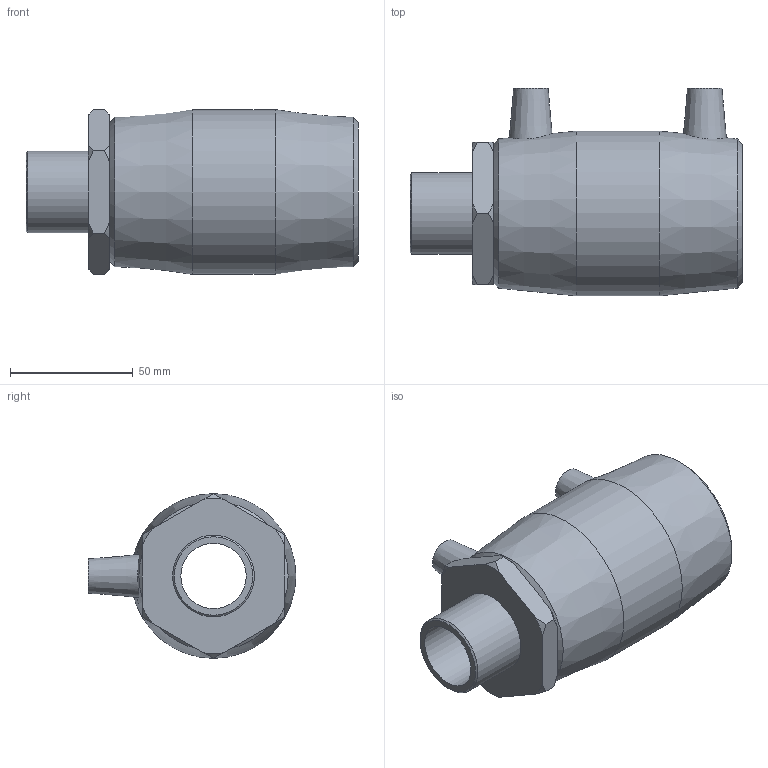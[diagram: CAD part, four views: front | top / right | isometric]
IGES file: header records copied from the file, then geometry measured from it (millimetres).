
Global section: file name: 492104050010.ipt; native system: Autodesk Inventor 2015; preprocessor: unknown; author: KIM; date: 20200202.122316; units: millimetre
Bounding box: 135 x 84.5 x 67 mm (x, y, z)
Volume: 207588.5 mm3; surface area: 53417.9 mm2
Topology: 1 solids, 2 shells, 54 faces, 129 edges, 88 vertices
Faces by surface type: plane 21, cone 19, revolution 8, cylinder 6
Full cylindrical faces by diameter (mm): 4 x2, 33.249 x1, 50 x2, 67 x1
